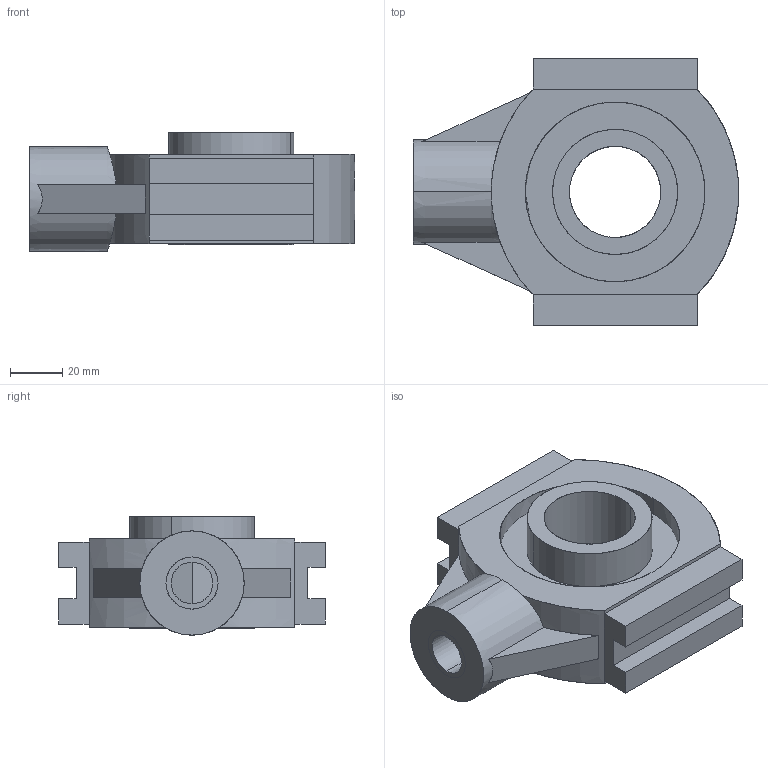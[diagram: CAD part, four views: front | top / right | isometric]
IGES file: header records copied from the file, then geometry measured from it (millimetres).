
Start section: SolidWorks IGES file using analytic representation for surfaces
Global section: file name: C:\Documents and Settings\ARGE\Desktop\yeni katalog tolgay düzenli\B kataloðu\RULMAN YATAKLARI\TPL rulman yataklari (kizak gerdirmeli)\246 TPL 207\export\245 TPL 207.IGS; native system: SolidWorks 2006 by SolidWorks Corporation; preprocessor: SolidWorks 2006 by SolidWorks Corporation; author: ARGE2; date: 060912.113940; units: millimetre
Bounding box: 125 x 102.5 x 45.4 mm (x, y, z)
Surface area: 50907.7 mm2 (no closed solid volume)
Topology: 0 solids, 0 shells, 64 faces, 1314 edges, 1314 vertices
Faces by surface type: bspline 41, revolution 23
